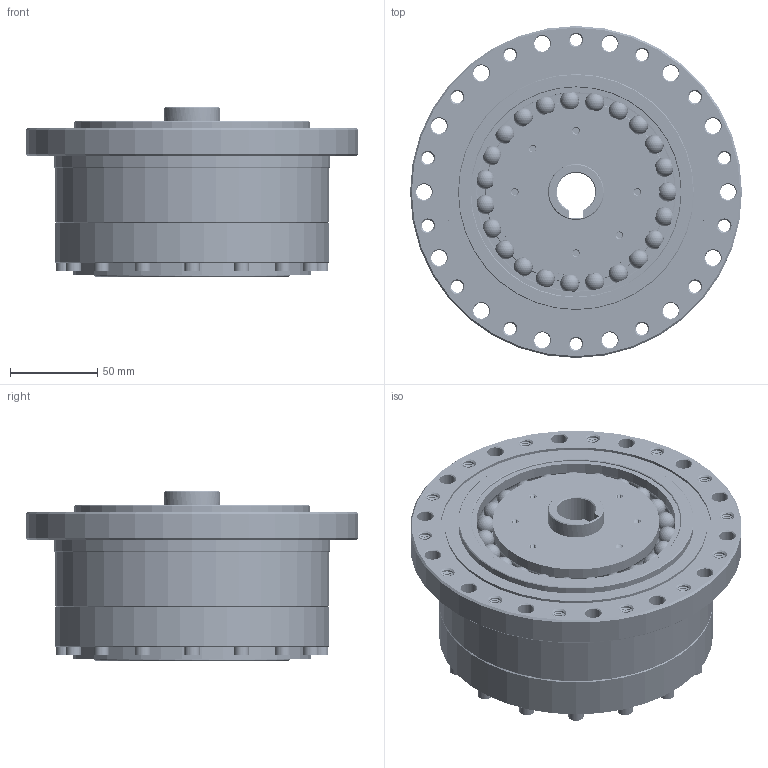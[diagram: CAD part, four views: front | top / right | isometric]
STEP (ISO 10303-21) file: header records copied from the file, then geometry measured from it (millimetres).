
FILE_DESCRIPTION(/* description */ (''),/* implementation_level */ '2;1');
FILE_NAME(/* name */ 'XBS50成品图.prt.stp',/* time_stamp */ '2022-07-23T13:04:06+08:00',/* author */ (''),/* organization */ (''),/* preprocessor_version */ 'ST-DEVELOPER v16',/* originating_system */ 'SIEMENS PLM Software NX 10.0',/* authorisation */ '');
FILE_SCHEMA (('CONFIG_CONTROL_DESIGN'));
Products named in the file (12): M3X6; XBS50-4-1-1销子; XBS50-3-1凸轮; 50-柔性轴承（国标）; XBS50-2柔轮; M5X30; M14X30; XBS50-2-1柔轮压板; G1121307; XBS50-4-2外圈; XBS50-4-1内芯_MODEL; XBS50成品图
Assembly tree (33 placements, depth 3):
  XBS50成品图
    XBS50-4-2外圈
    XBS50-4-1内芯_MODEL
      XBS50-4-1-1销子
      M3X6
    G1121307
    XBS50-2-1柔轮压板
    M14X30  x8
    M5X30  x16
    XBS50-2柔轮
    50-柔性轴承（国标）
    XBS50-3-1凸轮
Bounding box: 190 x 190 x 97 mm (x, y, z)
Volume: 1131565.9 mm3; surface area: 419275.4 mm2
Topology: 58 solids, 58 shells, 1937 faces, 5025 edges, 3252 vertices
Faces by surface type: cylinder 790, plane 551, cone 321, bspline 197, extrusion 45, sphere 23, torus 10
Full cylindrical faces by diameter (mm): 3.5 x1, 4.7 x1, 5 x496, 5.5 x16, 6 x1, 8.72 x16, 9 x14, 15 x16, 21.33 x8, 32 x2, 40 x3, 80 x1, 83 x1, 88 x1, 90 x1, 92 x1, 95.7 x2, 102.6 x1, 104 x1, 106 x1, 108 x1, 111.5 x1, 112 x2, 114.3 x2, 117.8 x1, 118 x1, 120 x3, 121 x2, 122 x1, 126 x2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
Entity records: 259115 total; most frequent: CARTESIAN_POINT 237507, ORIENTED_EDGE 3882, DIRECTION 3387, EDGE_CURVE 1941, EDGE_LOOP 1501, VERTEX_POINT 1459, AXIS2_PLACEMENT_3D 1443, FACE_BOUND 998
